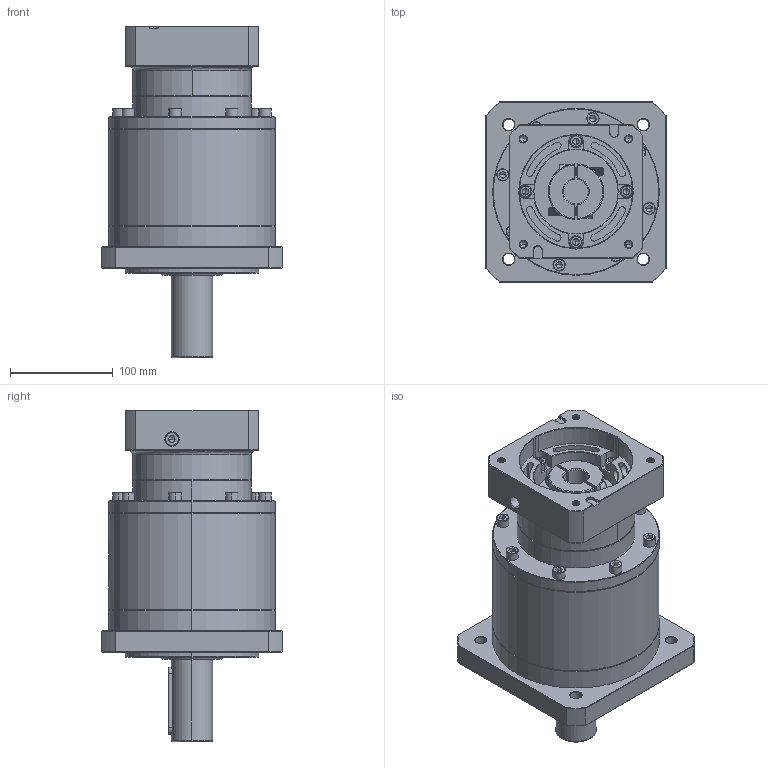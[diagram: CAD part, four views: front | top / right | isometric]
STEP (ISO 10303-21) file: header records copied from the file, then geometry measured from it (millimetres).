
FILE_DESCRIPTION (( 'STEP AP214' ), '1' );
FILE_NAME ('ZF160A-D40-L3-P2-24-110-145-M8.step', '2023-09-03T07:56:26', ( '' ), ( '' ), 'SwSTEP 2.0', 'SolidWorks 2016', '' );
FILE_SCHEMA (( 'AUTOMOTIVE_DESIGN' ));
Length unit declared in the file: millimetre
Products named in the file (1): ZF160A-D40-L3-P2-24-110-145-M8
Bounding box: 175 x 175 x 322.2 mm (x, y, z)
Volume: 4202784.4 mm3; surface area: 297381 mm2
Topology: 6 solids, 6 shells, 2485 faces, 6568 edges, 4204 vertices
Faces by surface type: plane 1145, cylinder 514, bspline 407, cone 361, torus 58
Entity records: 135140 total; most frequent: CARTESIAN_POINT 51540, ORIENTED_EDGE 13028, DIRECTION 9943, EDGE_CURVE 6514, VERTEX_POINT 4204, LINE 3457, VECTOR 3457, AXIS2_PLACEMENT_3D 3243
